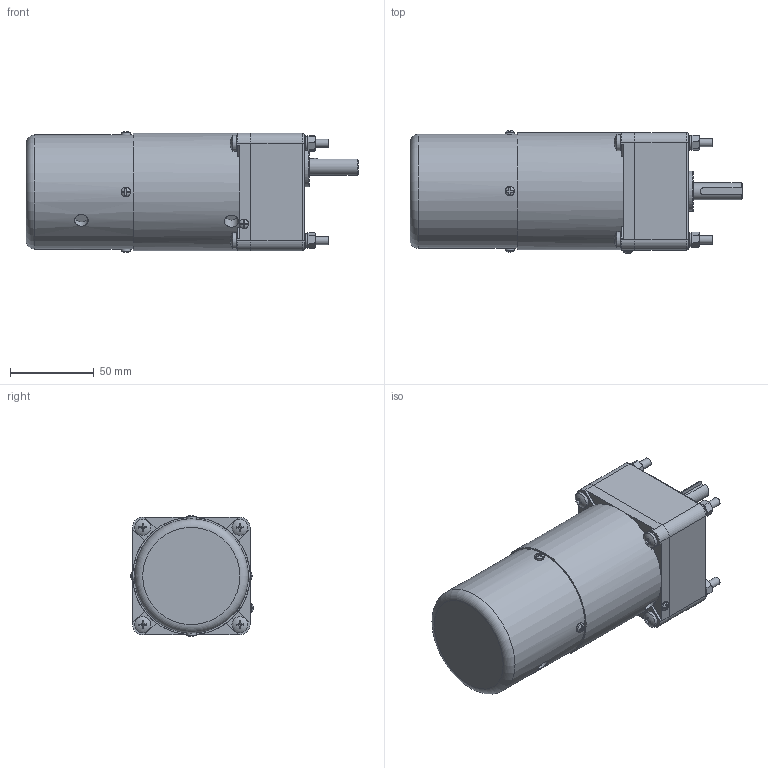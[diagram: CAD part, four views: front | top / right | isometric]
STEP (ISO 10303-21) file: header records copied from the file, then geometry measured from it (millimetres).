
FILE_DESCRIPTION(/* description */ (''),/* implementation_level */ '2;1');
FILE_NAME(/* name */ '70矮箱T-15W刹车调速.stp',/* time_stamp */ '2022-10-31T08:56:32+08:00',/* author */ (''),/* organization */ (''),/* preprocessor_version */ 'ST-DEVELOPER v16.7',/* originating_system */ 'SIEMENS PLM Software NX 1899',/* authorisation */ '');
FILE_SCHEMA (('AP203_CONFIGURATION_CONTROLLED_3D_DESIGN_OF_MECHANICAL_PARTS_AND_ASSEMBLIES_MIM_LF { 1 0 10303 403 2 1 2}'));
Length unit declared in the file: millimetre
Products named in the file (1): yf186188FEB6lc4v
Bounding box: 198 x 73.28 x 72.48 mm (x, y, z)
Volume: 666257.2 mm3; surface area: 69145.9 mm2
Topology: 22 solids, 23 shells, 447 faces, 1075 edges, 695 vertices
Faces by surface type: plane 207, bspline 80, cylinder 77, cone 63, torus 11, sphere 9
Full cylindrical faces by diameter (mm): 2.7 x1, 4.351 x4, 4.826 x4, 5 x4, 5.3 x8, 5.6 x5, 6 x9, 8 x1, 8.3 x1, 9 x8, 9.5 x4, 10 x1, 24 x1, 63 x1, 66.6 x2, 68 x1, 70 x1
Entity records: 14328 total; most frequent: CARTESIAN_POINT 3856, ORIENTED_EDGE 1904, DIRECTION 1699, EDGE_CURVE 952, AXIS2_PLACEMENT_3D 706, VERTEX_POINT 658, EDGE_LOOP 593, ADVANCED_FACE 447
